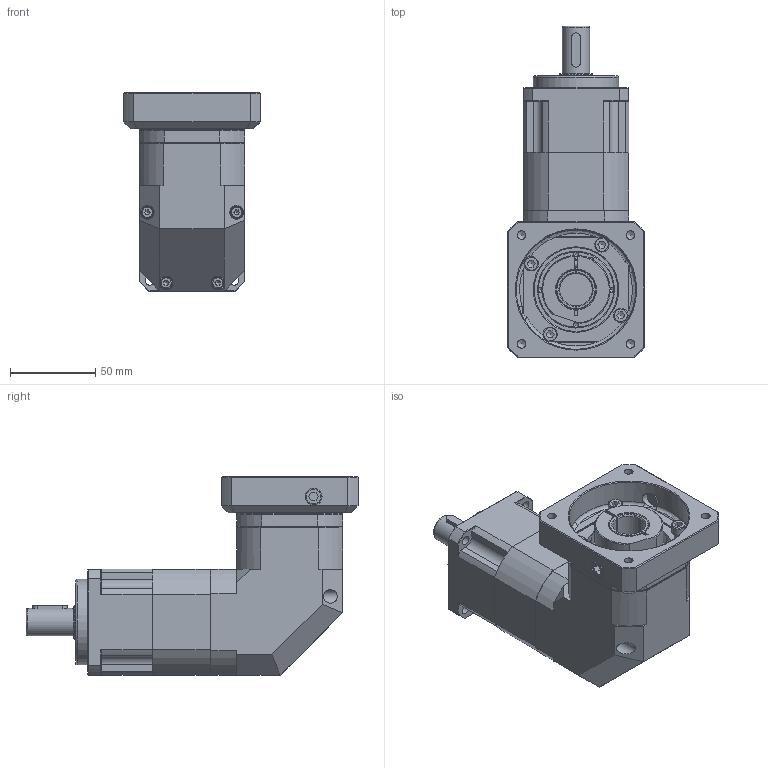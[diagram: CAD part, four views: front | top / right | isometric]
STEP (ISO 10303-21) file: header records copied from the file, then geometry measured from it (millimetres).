
FILE_DESCRIPTION((''),'2;1');
FILE_NAME('C:\Work\감속기 카다로그 도면\ATG Reducer(홈페이지)\PBL-H\STP\PBL62-H-2 (S19).stp','2014-05-27T14:49:07',('young'),(''),'Autodesk Inventor 2012','Autodesk Inventor 2012','');
FILE_SCHEMA(('AUTOMOTIVE_DESIGN { 1 0 10303 214 1 1 1 1 }'));
Length unit declared in the file: millimetre
Products named in the file (1): PBL62-H-2 (S19)
Bounding box: 80 x 194.3 x 116 mm (x, y, z)
Volume: 512278.8 mm3; surface area: 139528.3 mm2
Topology: 23 solids, 23 shells, 664 faces, 1668 edges, 1088 vertices
Faces by surface type: plane 361, cylinder 160, cone 100, torus 23, bspline 20
Full cylindrical faces by diameter (mm): 3 x4, 3.3 x4, 4 x5, 4.2 x6, 4.5 x8, 5 x13, 5.5 x13, 7 x5, 8 x4, 8.5 x4, 9.5 x2, 16 x1, 17 x1, 19.2 x1, 19.8 x1, 20 x2, 23.5 x1, 24.8 x1, 30 x2, 34 x1, 35 x6, 40 x1, 44 x2, 48 x3, 50 x5, 52 x1, 70 x1
Entity records: 24730 total; most frequent: CARTESIAN_POINT 9889, DIRECTION 2964, ORIENTED_EDGE 2874, EDGE_CURVE 1437, AXIS2_PLACEMENT_3D 1138, VERTEX_POINT 1030, EDGE_LOOP 937, VECTOR 688
